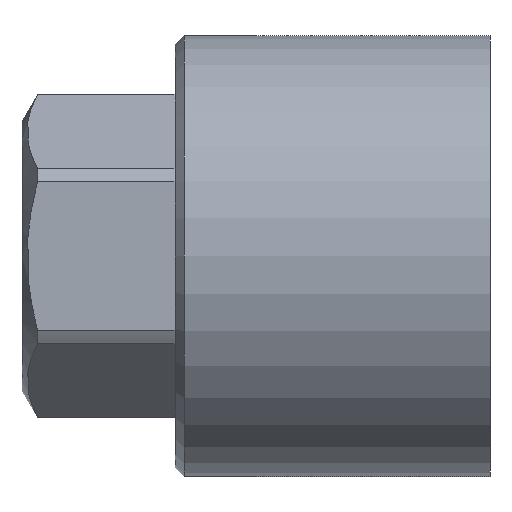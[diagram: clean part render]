
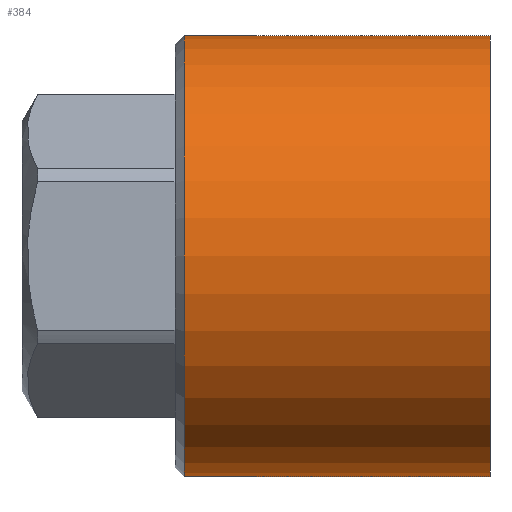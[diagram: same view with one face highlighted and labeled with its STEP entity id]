
A CAD part, front view. The second image highlights one B-rep face of the part: STEP entity #384.
In plain terms, the highlighted cylindrical face has radius 12.25 mm (diameter 24.5 mm), a full revolution.
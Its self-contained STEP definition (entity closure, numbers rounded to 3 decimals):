
#22=CYLINDRICAL_SURFACE('',#421,12.25);
#82=FACE_BOUND('',#127,.T.);
#97=FACE_OUTER_BOUND('',#126,.T.);
#126=EDGE_LOOP('',(#293));
#127=EDGE_LOOP('',(#294));
#165=CIRCLE('',#413,12.25);
#172=CIRCLE('',#422,12.25);
#191=VERTEX_POINT('',#594);
#204=VERTEX_POINT('',#622);
#229=EDGE_CURVE('',#191,#191,#165,.T.);
#242=EDGE_CURVE('',#204,#204,#172,.T.);
#293=ORIENTED_EDGE('',*,*,#242,.F.);
#294=ORIENTED_EDGE('',*,*,#229,.F.);
#384=ADVANCED_FACE('',(#97,#82),#22,.T.);
#413=AXIS2_PLACEMENT_3D('',#595,#470,#471);
#421=AXIS2_PLACEMENT_3D('',#621,#492,#493);
#422=AXIS2_PLACEMENT_3D('',#623,#494,#495);
#470=DIRECTION('center_axis',(-1.,0.,0.));
#471=DIRECTION('ref_axis',(0.,-1.,0.));
#492=DIRECTION('center_axis',(1.,0.,0.));
#493=DIRECTION('ref_axis',(0.,1.,0.));
#494=DIRECTION('center_axis',(1.,0.,0.));
#495=DIRECTION('ref_axis',(0.,1.,0.));
#594=CARTESIAN_POINT('',(9.,12.25,0.));
#595=CARTESIAN_POINT('Origin',(9.,0.,0.));
#621=CARTESIAN_POINT('Origin',(17.25,0.,0.));
#622=CARTESIAN_POINT('',(26.,12.25,0.));
#623=CARTESIAN_POINT('Origin',(26.,0.,0.));
